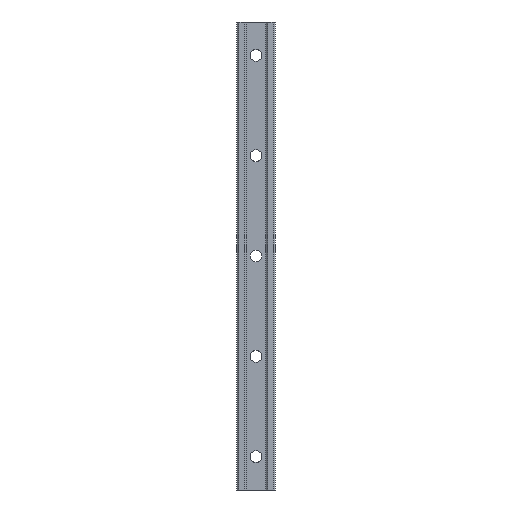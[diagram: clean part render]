
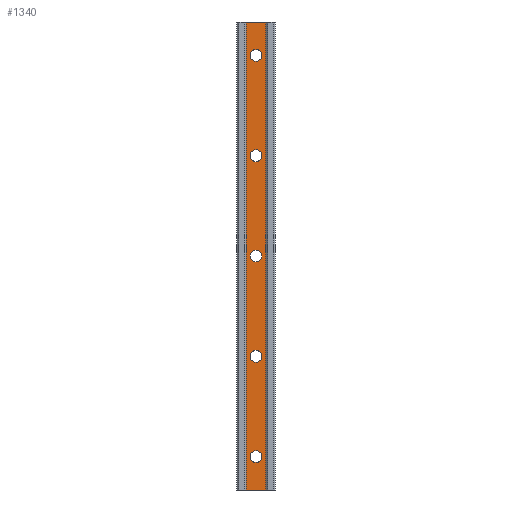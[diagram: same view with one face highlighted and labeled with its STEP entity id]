
A CAD part, front view. The second image highlights one B-rep face of the part: STEP entity #1340.
In plain terms, the highlighted planar face has unit normal (0, -1, 0).
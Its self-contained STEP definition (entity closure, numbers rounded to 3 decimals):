
#12 = AXIS2_PLACEMENT_3D ( 'NONE', #817, #438, #938 ) ;
#17 = EDGE_CURVE ( 'NONE', #707, #1439, #673, .T. ) ;
#20 = VERTEX_POINT ( 'NONE', #59 ) ;
#32 = CIRCLE ( 'NONE', #362, 3.5 ) ;
#43 = DIRECTION ( 'NONE',  ( 0., 0., 1. ) ) ;
#51 = VERTEX_POINT ( 'NONE', #1516 ) ;
#52 = EDGE_CURVE ( 'NONE', #648, #51, #230, .T. ) ;
#59 = CARTESIAN_POINT ( 'NONE',  ( 0., 1.25, -3.5 ) ) ;
#76 = EDGE_LOOP ( 'NONE', ( #458, #592, #830, #464 ) ) ;
#77 = EDGE_CURVE ( 'NONE', #388, #637, #1334, .T. ) ;
#94 = EDGE_CURVE ( 'NONE', #271, #1035, #544, .T. ) ;
#96 = CARTESIAN_POINT ( 'NONE',  ( -5.75, 1.25, -140. ) ) ;
#109 = DIRECTION ( 'NONE',  ( 0., 0., 1. ) ) ;
#126 = ORIENTED_EDGE ( 'NONE', *, *, #738, .T. ) ;
#153 = DIRECTION ( 'NONE',  ( 0., 0., 1. ) ) ;
#182 = CIRCLE ( 'NONE', #1315, 3.5 ) ;
#197 = CARTESIAN_POINT ( 'NONE',  ( 0., 1.25, -60. ) ) ;
#207 = VECTOR ( 'NONE', #1378, 1000. ) ;
#211 = CARTESIAN_POINT ( 'NONE',  ( 0., 1.25, 56.5 ) ) ;
#214 = CARTESIAN_POINT ( 'NONE',  ( -5.75, 1.25, 140. ) ) ;
#217 = DIRECTION ( 'NONE',  ( 0., 0., 1. ) ) ;
#228 = FACE_BOUND ( 'NONE', #1430, .T. ) ;
#230 = CIRCLE ( 'NONE', #1002, 3.5 ) ;
#247 = VECTOR ( 'NONE', #43, 1000. ) ;
#266 = FACE_BOUND ( 'NONE', #941, .T. ) ;
#271 = VERTEX_POINT ( 'NONE', #1541 ) ;
#291 = AXIS2_PLACEMENT_3D ( 'NONE', #678, #333, #1225 ) ;
#321 = VERTEX_POINT ( 'NONE', #1562 ) ;
#333 = DIRECTION ( 'NONE',  ( 0., 1., 0. ) ) ;
#337 = AXIS2_PLACEMENT_3D ( 'NONE', #581, #1357, #574 ) ;
#338 = DIRECTION ( 'NONE',  ( 0., 0., 1. ) ) ;
#340 = AXIS2_PLACEMENT_3D ( 'NONE', #1051, #553, #661 ) ;
#352 = CARTESIAN_POINT ( 'NONE',  ( 0., 1.25, -120. ) ) ;
#362 = AXIS2_PLACEMENT_3D ( 'NONE', #966, #1252, #217 ) ;
#370 = CARTESIAN_POINT ( 'NONE',  ( 5.75, 1.25, -140. ) ) ;
#377 = DIRECTION ( 'NONE',  ( 0., 1., 0. ) ) ;
#378 = LINE ( 'NONE', #1195, #247 ) ;
#388 = VERTEX_POINT ( 'NONE', #1302 ) ;
#394 = CARTESIAN_POINT ( 'NONE',  ( 0., 1.25, -116.5 ) ) ;
#402 = DIRECTION ( 'NONE',  ( 0., 0., 1. ) ) ;
#405 = EDGE_CURVE ( 'NONE', #531, #1035, #378, .T. ) ;
#417 = DIRECTION ( 'NONE',  ( 0., 1., 0. ) ) ;
#436 = VERTEX_POINT ( 'NONE', #1050 ) ;
#438 = DIRECTION ( 'NONE',  ( 0., 1., 0. ) ) ;
#447 = CIRCLE ( 'NONE', #1011, 3.5 ) ;
#458 = ORIENTED_EDGE ( 'NONE', *, *, #94, .T. ) ;
#464 = ORIENTED_EDGE ( 'NONE', *, *, #869, .T. ) ;
#498 = AXIS2_PLACEMENT_3D ( 'NONE', #352, #708, #338 ) ;
#523 = FACE_BOUND ( 'NONE', #1298, .T. ) ;
#531 = VERTEX_POINT ( 'NONE', #1441 ) ;
#540 = FACE_BOUND ( 'NONE', #1463, .T. ) ;
#544 = LINE ( 'NONE', #214, #207 ) ;
#553 = DIRECTION ( 'NONE',  ( 0., 1., 0. ) ) ;
#572 = CARTESIAN_POINT ( 'NONE',  ( 0., 1.25, 123.5 ) ) ;
#574 = DIRECTION ( 'NONE',  ( 0., 0., 1. ) ) ;
#581 = CARTESIAN_POINT ( 'NONE',  ( 0., 1.25, 120. ) ) ;
#592 = ORIENTED_EDGE ( 'NONE', *, *, #405, .F. ) ;
#599 = DIRECTION ( 'NONE',  ( -1., 0., 0. ) ) ;
#600 = CIRCLE ( 'NONE', #1207, 3.5 ) ;
#606 = EDGE_CURVE ( 'NONE', #896, #20, #842, .T. ) ;
#616 = CARTESIAN_POINT ( 'NONE',  ( 0., 1.25, 0. ) ) ;
#637 = VERTEX_POINT ( 'NONE', #572 ) ;
#638 = LINE ( 'NONE', #370, #717 ) ;
#648 = VERTEX_POINT ( 'NONE', #978 ) ;
#655 = CIRCLE ( 'NONE', #498, 3.5 ) ;
#661 = DIRECTION ( 'NONE',  ( 0., 0., 1. ) ) ;
#667 = DIRECTION ( 'NONE',  ( 0., 0., 1. ) ) ;
#673 = CIRCLE ( 'NONE', #12, 3.5 ) ;
#678 = CARTESIAN_POINT ( 'NONE',  ( 0., 1.25, 0. ) ) ;
#707 = VERTEX_POINT ( 'NONE', #211 ) ;
#708 = DIRECTION ( 'NONE',  ( 0., 1., 0. ) ) ;
#711 = EDGE_CURVE ( 'NONE', #637, #388, #32, .T. ) ;
#717 = VECTOR ( 'NONE', #402, 1000. ) ;
#738 = EDGE_CURVE ( 'NONE', #801, #321, #655, .T. ) ;
#752 = DIRECTION ( 'NONE',  ( 0., 0., 1. ) ) ;
#801 = VERTEX_POINT ( 'NONE', #394 ) ;
#806 = DIRECTION ( 'NONE',  ( 0., 1., 0. ) ) ;
#817 = CARTESIAN_POINT ( 'NONE',  ( 0., 1.25, 60. ) ) ;
#830 = ORIENTED_EDGE ( 'NONE', *, *, #1552, .F. ) ;
#842 = CIRCLE ( 'NONE', #291, 3.5 ) ;
#854 = DIRECTION ( 'NONE',  ( 0., 0., 1. ) ) ;
#869 = EDGE_CURVE ( 'NONE', #436, #271, #638, .T. ) ;
#873 = FACE_OUTER_BOUND ( 'NONE', #76, .T. ) ;
#896 = VERTEX_POINT ( 'NONE', #1446 ) ;
#911 = ORIENTED_EDGE ( 'NONE', *, *, #17, .T. ) ;
#937 = ORIENTED_EDGE ( 'NONE', *, *, #711, .T. ) ;
#938 = DIRECTION ( 'NONE',  ( 0., 0., 1. ) ) ;
#941 = EDGE_LOOP ( 'NONE', ( #981, #1373 ) ) ;
#966 = CARTESIAN_POINT ( 'NONE',  ( 0., 1.25, 120. ) ) ;
#978 = CARTESIAN_POINT ( 'NONE',  ( 0., 1.25, -63.5 ) ) ;
#981 = ORIENTED_EDGE ( 'NONE', *, *, #1360, .T. ) ;
#995 = CARTESIAN_POINT ( 'NONE',  ( 0., 1.25, 60. ) ) ;
#1002 = AXIS2_PLACEMENT_3D ( 'NONE', #197, #1632, #854 ) ;
#1011 = AXIS2_PLACEMENT_3D ( 'NONE', #1062, #806, #153 ) ;
#1028 = EDGE_LOOP ( 'NONE', ( #937, #1401 ) ) ;
#1032 = CARTESIAN_POINT ( 'NONE',  ( 0., 1.25, 63.5 ) ) ;
#1035 = VERTEX_POINT ( 'NONE', #1616 ) ;
#1049 = CIRCLE ( 'NONE', #1499, 3.5 ) ;
#1050 = CARTESIAN_POINT ( 'NONE',  ( 5.75, 1.25, -140. ) ) ;
#1051 = CARTESIAN_POINT ( 'NONE',  ( -5.75, 1.25, -140. ) ) ;
#1062 = CARTESIAN_POINT ( 'NONE',  ( 0., 1.25, -60. ) ) ;
#1107 = ORIENTED_EDGE ( 'NONE', *, *, #606, .T. ) ;
#1140 = ORIENTED_EDGE ( 'NONE', *, *, #1673, .T. ) ;
#1195 = CARTESIAN_POINT ( 'NONE',  ( -5.75, 1.25, -140. ) ) ;
#1207 = AXIS2_PLACEMENT_3D ( 'NONE', #616, #377, #109 ) ;
#1209 = VECTOR ( 'NONE', #599, 1000. ) ;
#1225 = DIRECTION ( 'NONE',  ( 0., 0., 1. ) ) ;
#1252 = DIRECTION ( 'NONE',  ( 0., 1., 0. ) ) ;
#1298 = EDGE_LOOP ( 'NONE', ( #1107, #1665 ) ) ;
#1302 = CARTESIAN_POINT ( 'NONE',  ( 0., 1.25, 116.5 ) ) ;
#1309 = EDGE_CURVE ( 'NONE', #321, #801, #182, .T. ) ;
#1315 = AXIS2_PLACEMENT_3D ( 'NONE', #1466, #417, #667 ) ;
#1332 = FACE_BOUND ( 'NONE', #1028, .T. ) ;
#1334 = CIRCLE ( 'NONE', #337, 3.5 ) ;
#1340 = ADVANCED_FACE ( 'NONE', ( #228, #523, #266, #540, #1332, #873 ), #1458, .F. ) ;
#1357 = DIRECTION ( 'NONE',  ( 0., 1., 0. ) ) ;
#1360 = EDGE_CURVE ( 'NONE', #51, #648, #447, .T. ) ;
#1373 = ORIENTED_EDGE ( 'NONE', *, *, #52, .T. ) ;
#1378 = DIRECTION ( 'NONE',  ( -1., 0., 0. ) ) ;
#1401 = ORIENTED_EDGE ( 'NONE', *, *, #77, .T. ) ;
#1430 = EDGE_LOOP ( 'NONE', ( #1140, #911 ) ) ;
#1439 = VERTEX_POINT ( 'NONE', #1032 ) ;
#1441 = CARTESIAN_POINT ( 'NONE',  ( -5.75, 1.25, -140. ) ) ;
#1443 = ORIENTED_EDGE ( 'NONE', *, *, #1309, .T. ) ;
#1446 = CARTESIAN_POINT ( 'NONE',  ( 0., 1.25, 3.5 ) ) ;
#1458 = PLANE ( 'NONE',  #340 ) ;
#1463 = EDGE_LOOP ( 'NONE', ( #126, #1443 ) ) ;
#1466 = CARTESIAN_POINT ( 'NONE',  ( 0., 1.25, -120. ) ) ;
#1499 = AXIS2_PLACEMENT_3D ( 'NONE', #995, #1539, #752 ) ;
#1516 = CARTESIAN_POINT ( 'NONE',  ( 0., 1.25, -56.5 ) ) ;
#1539 = DIRECTION ( 'NONE',  ( 0., 1., 0. ) ) ;
#1541 = CARTESIAN_POINT ( 'NONE',  ( 5.75, 1.25, 140. ) ) ;
#1552 = EDGE_CURVE ( 'NONE', #436, #531, #1642, .T. ) ;
#1562 = CARTESIAN_POINT ( 'NONE',  ( 0., 1.25, -123.5 ) ) ;
#1616 = CARTESIAN_POINT ( 'NONE',  ( -5.75, 1.25, 140. ) ) ;
#1632 = DIRECTION ( 'NONE',  ( 0., 1., 0. ) ) ;
#1642 = LINE ( 'NONE', #96, #1209 ) ;
#1665 = ORIENTED_EDGE ( 'NONE', *, *, #1667, .T. ) ;
#1667 = EDGE_CURVE ( 'NONE', #20, #896, #600, .T. ) ;
#1673 = EDGE_CURVE ( 'NONE', #1439, #707, #1049, .T. ) ;
